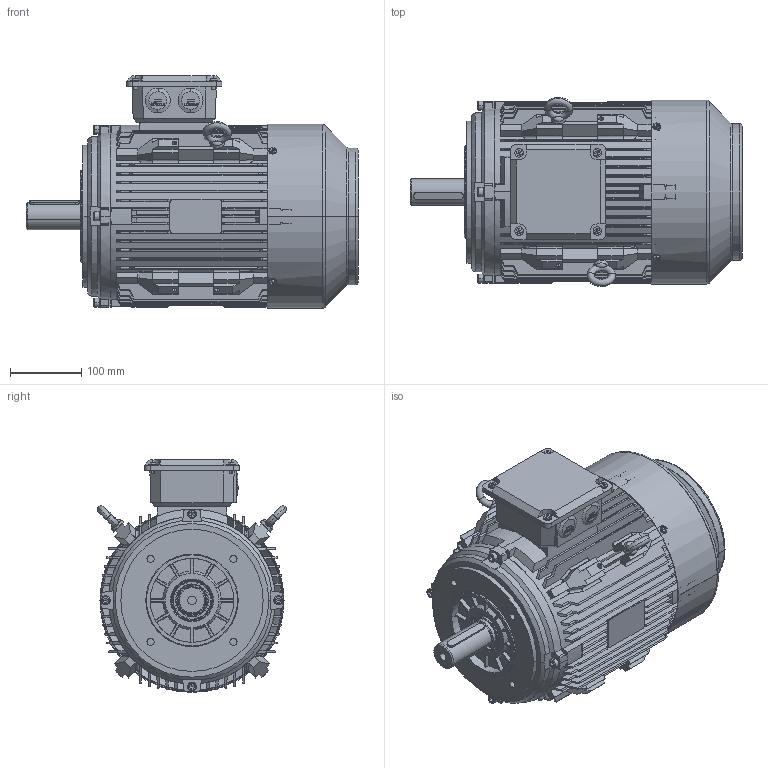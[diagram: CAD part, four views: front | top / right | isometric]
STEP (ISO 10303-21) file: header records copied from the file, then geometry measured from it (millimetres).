
FILE_DESCRIPTION (( 'STEP AP214' ), '1' );
FILE_NAME ('BCT3300.13A614.11.STEP', '2020-04-23T14:04:10', ( '' ), ( '' ), 'SwSTEP 2.0', 'SolidWorks 2019', '' );
FILE_SCHEMA (( 'AUTOMOTIVE_DESIGN' ));
Length unit declared in the file: millimetre
Products named in the file (1): BCT3300.13A614.11
Bounding box: 467 x 265.93 x 327.5 mm (x, y, z)
Volume: 4184883.4 mm3; surface area: 1584729.9 mm2
Topology: 33 solids, 33 shells, 4122 faces, 11384 edges, 7424 vertices
Faces by surface type: plane 1996, cylinder 1489, cone 355, torus 150, bspline 132
Entity records: 156537 total; most frequent: CARTESIAN_POINT 51714, ORIENTED_EDGE 22664, DIRECTION 20718, EDGE_CURVE 11332, VERTEX_POINT 7428, AXIS2_PLACEMENT_3D 7124, VECTOR 6470, LINE 6470
